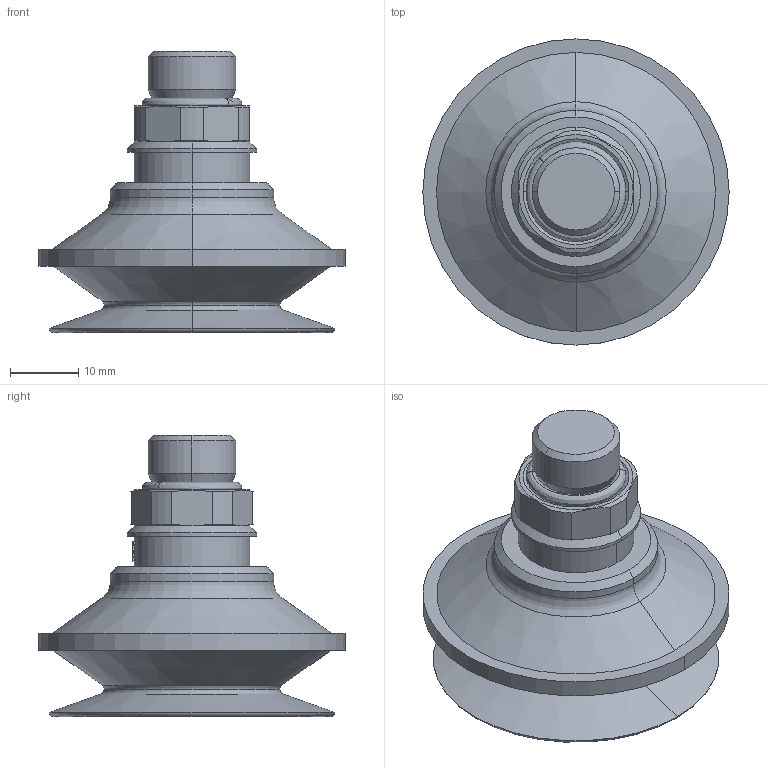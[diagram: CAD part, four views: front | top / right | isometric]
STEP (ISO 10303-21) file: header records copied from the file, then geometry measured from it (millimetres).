
FILE_DESCRIPTION (( 'STEP AP203' ), '1' );
FILE_NAME ('2321638.STEP', '2020-12-07T12:44:48', ( '' ), ( '' ), 'SwSTEP 2.0', 'SolidWorks 2020', '' );
FILE_SCHEMA (( 'CONFIG_CONTROL_DESIGN' ));
Length unit declared in the file: millimetre
Products named in the file (2): 2321638; Copia di 2321638-AS01^2321638
Assembly tree (1 placements, depth 2):
  2321638
    Copia di 2321638-AS01^2321638
Bounding box: 45 x 45 x 41.3 mm (x, y, z)
Volume: 23222 mm3; surface area: 7328.5 mm2
Topology: 2 solids, 2 shells, 104 faces, 228 edges, 142 vertices
Faces by surface type: cylinder 30, bspline 28, cone 20, plane 14, torus 12
Entity records: 4232 total; most frequent: CARTESIAN_POINT 1970, ORIENTED_EDGE 456, DIRECTION 370, EDGE_CURVE 228, AXIS2_PLACEMENT_3D 162, VERTEX_POINT 142, EDGE_LOOP 120, ADVANCED_FACE 104
